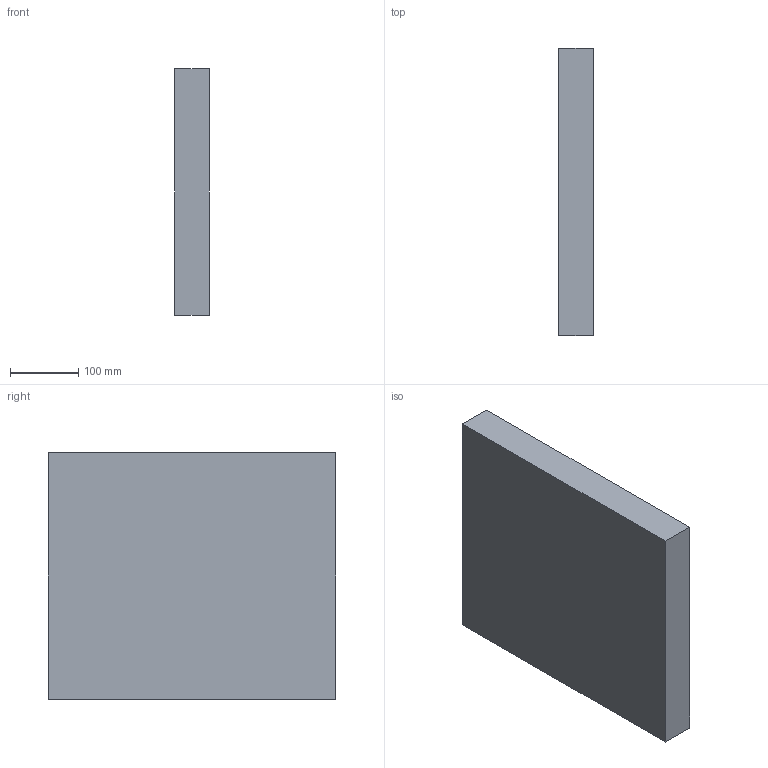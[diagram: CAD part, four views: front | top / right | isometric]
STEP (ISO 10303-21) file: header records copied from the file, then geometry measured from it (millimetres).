
FILE_DESCRIPTION(('Open CASCADE Model'),'2;1');
FILE_NAME('Open CASCADE Shape Model','2026-10-16T18:03:45',('Author'),( 'Open CASCADE'),'Open CASCADE STEP processor 7.8','Open CASCADE 7.8' ,'Unknown');
FILE_SCHEMA(('AUTOMOTIVE_DESIGN { 1 0 10303 214 1 1 1 1 }'));
Length unit declared in the file: millimetre
Products named in the file (1): Open CASCADE STEP translator 7.8 37
Bounding box: 50 x 420 x 360 mm (x, y, z)
Volume: 7560000 mm3; surface area: 380400 mm2
Topology: 1 solids, 1 shells, 6 faces, 12 edges, 8 vertices
Faces by surface type: plane 6
Entity records: 322 total; most frequent: CARTESIAN_POINT 51, DIRECTION 50, LINE 36, VECTOR 36, ORIENTED_EDGE 24, PCURVE 24, DEFINITIONAL_REPRESENTATION 24, EDGE_CURVE 12
